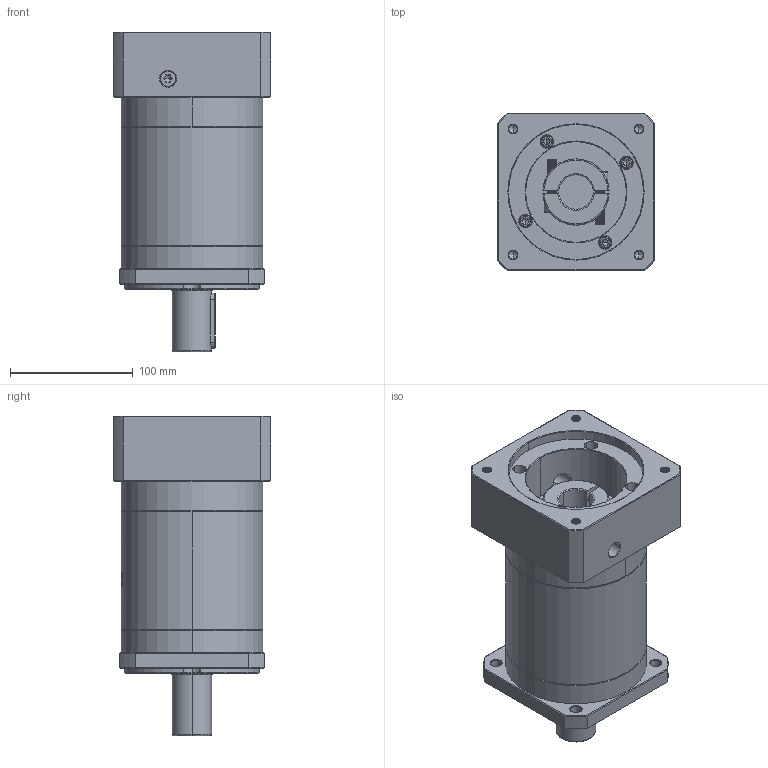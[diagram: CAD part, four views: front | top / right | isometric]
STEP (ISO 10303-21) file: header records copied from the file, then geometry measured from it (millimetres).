
FILE_DESCRIPTION (( 'STEP AP214' ), '1' );
FILE_NAME ('ZF120A-D32-L3-P2-28-110-145-M8.step', '2023-08-27T04:48:38', ( '' ), ( '' ), 'SwSTEP 2.0', 'SolidWorks 2016', '' );
FILE_SCHEMA (( 'AUTOMOTIVE_DESIGN' ));
Length unit declared in the file: millimetre
Products named in the file (1): ZF120A-D32-L3-P2-28-110-145-M8
Bounding box: 128 x 128 x 260.5 mm (x, y, z)
Volume: 2264630.7 mm3; surface area: 201897.1 mm2
Topology: 6 solids, 6 shells, 2214 faces, 5869 edges, 3759 vertices
Faces by surface type: plane 1033, cylinder 420, bspline 419, cone 322, torus 20
Entity records: 122533 total; most frequent: CARTESIAN_POINT 48673, ORIENTED_EDGE 11678, DIRECTION 8448, EDGE_CURVE 5839, VERTEX_POINT 3759, VECTOR 3088, LINE 3088, AXIS2_PLACEMENT_3D 2680
